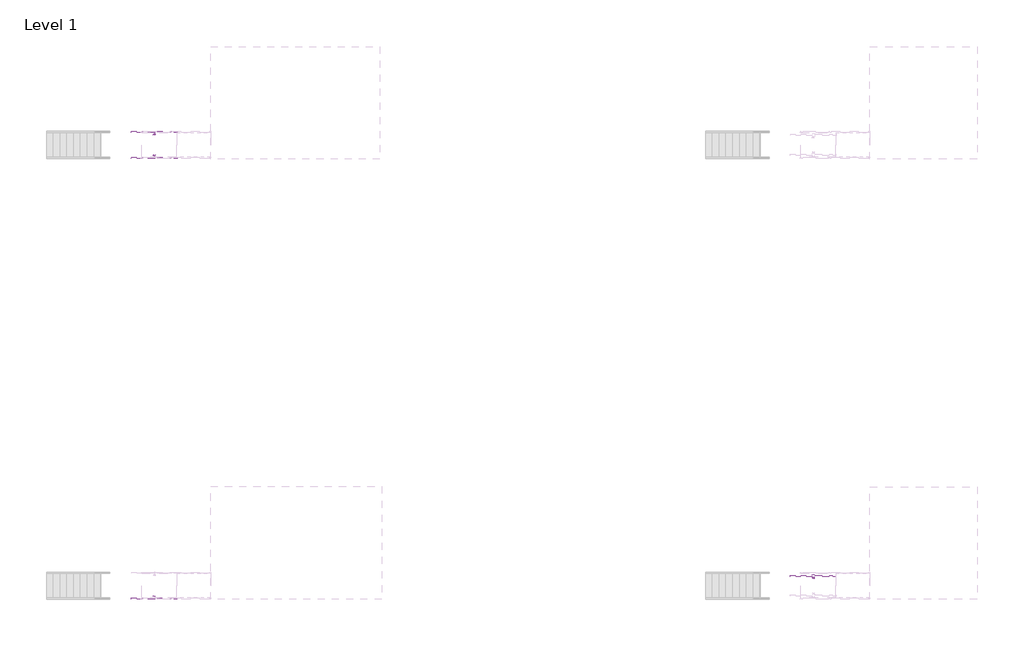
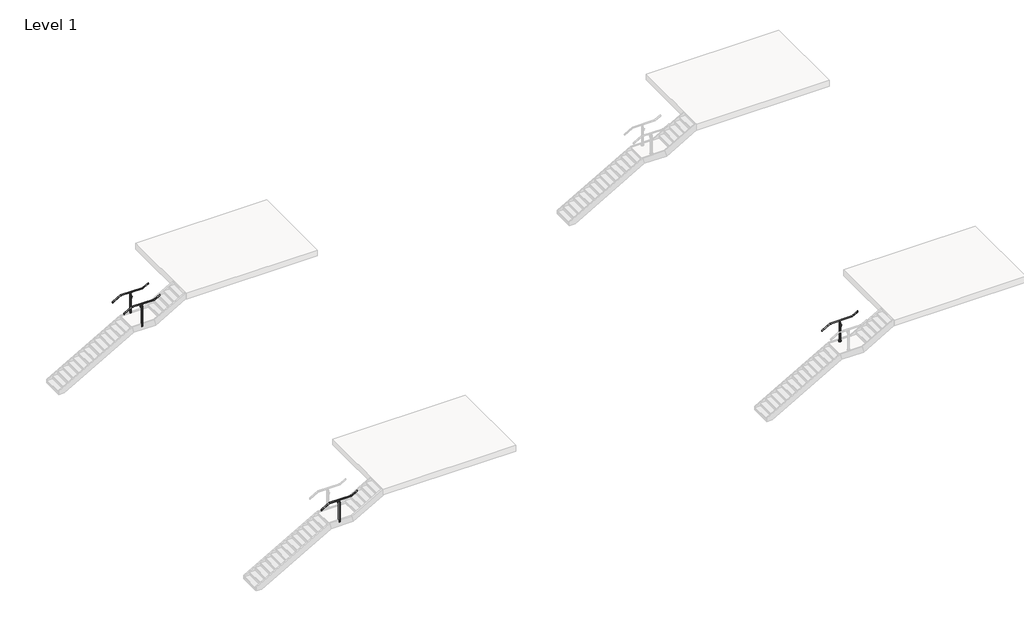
# One storey, part 18 of 26: 4 railings.
"""IFC4 building model written with IfcOpenShell, lengths in millimetres."""

from ifc_helpers import new_model, si_unit, point, frame, frame_2d, origin, place, context, project, spatial, polyline, circle_curve, ellipse_curve, trimmed, segment, composite_curve, outline, extrude, faceted_brep, element, save
from ifc_brep_helpers import plane_surface, cylinder_surface, advanced_brep

model = new_model("IFC4")

# Units and contexts
model_context = context("Model", 3, world=origin())
ifc_project = project(units=[si_unit("LENGTHUNIT", "METRE", prefix="MILLI")], contexts=[model_context])

# Site, building, storey
site = spatial("IfcSite", under=ifc_project)
building = spatial("IfcBuilding", under=site)
storey = spatial("IfcBuildingStorey", under=building, Name="Level 1", Elevation=0.0)

# Railings
placement = place(None, origin())
element("IfcRailing", 1, ObjectType="VIVA-CUBE-Perforated-Weld Mount-Stair-Landing", at=placement, inside=storey, context=model_context, shape_type="SolidModel", body=[
    advanced_brep(
    [(137924.2882982, -1515.4986114, 3009.6740933), (137924.2882982, -1464.6986114, 3009.6740933), (138312.0336349, -1515.4986114, 3231.2428571), (138312.0336349, -1464.6986114, 3231.2428571), (139378.8336349, -1515.4986114, 3231.2428571), (139378.8336349, -1464.6986114, 3231.2428571), (139648.3132982, -1515.4986114, 3385.2312362), (139648.3132982, -1464.6986114, 3385.2312362)],
    [
        (0, 1, ellipse_curve(frame((137924.2882982, -1490.0986114, 3009.6740933), z_axis=(-1.0, 0.0, 0.0), x_axis=(0.0, 0.0, -0.9999999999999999)), 29.2544781, 25.4)),
        (1, 0, ellipse_curve(frame((137924.2882982, -1490.0986114, 3009.6740933), z_axis=(-1.0, 0.0, 0.0), x_axis=(0.0, 0.0, -0.9999999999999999)), 29.2544781, 25.4)),
        (0, 2),
        (2, 3, ellipse_curve(frame((138312.0336349, -1490.0986114, 3231.2428571), z_axis=(-0.966499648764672, 0.0, -0.2566679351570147), x_axis=(0.2566679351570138, 0.0, -0.9664996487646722)), 26.2804027, 25.4)),
        (3, 1),
        (3, 2, ellipse_curve(frame((138312.0336349, -1490.0986114, 3231.2428571), z_axis=(-0.966499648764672, 0.0, -0.2566679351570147), x_axis=(0.2566679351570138, 0.0, -0.9664996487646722)), 26.2804027, 25.4)),
        (2, 4),
        (4, 5, ellipse_curve(frame((139378.8336349, -1490.0986114, 3231.2428571), z_axis=(-0.9664996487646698, 0.0, -0.2566679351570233), x_axis=(-0.25666793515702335, 0.0, 0.9664996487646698)), 26.2804027, 25.4)),
        (5, 3),
        (5, 4, ellipse_curve(frame((139378.8336349, -1490.0986114, 3231.2428571), z_axis=(-0.9664996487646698, 0.0, -0.2566679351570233), x_axis=(-0.25666793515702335, 0.0, 0.9664996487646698)), 26.2804027, 25.4)),
        (6, 7, ellipse_curve(frame((139648.3132982, -1490.0986114, 3385.2312362), z_axis=(1.0, 0.0, 0.0), x_axis=(0.0, 0.0, -1.0)), 29.2544781, 25.4)),
        (7, 6, ellipse_curve(frame((139648.3132982, -1490.0986114, 3385.2312362), z_axis=(1.0, 0.0, 0.0), x_axis=(0.0, 0.0, -1.0)), 29.2544781, 25.4)),
        (4, 6),
        (7, 5),
    ],
    [
        plane_surface(frame((137924.2882982, -1490.0986114, 3038.9285714), z_axis=(-1.0, 0.0, 0.0), x_axis=(0.0, 1.0, 0.0))),
        cylinder_surface(frame((137936.8902273, -1490.0986114, 3016.8751956), z_axis=(-0.868243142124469, 0.0, -0.49613893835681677), x_axis=(0.0, 1.0, 0.0)), 25.4),
        cylinder_surface(frame((138305.2882982, -1490.0986114, 3231.2428571), z_axis=(-1.0, 0.0, 0.0), x_axis=(0.0, 1.0, 0.0)), 25.4),
        plane_surface(frame((139648.3132982, -1490.0986114, 3414.4857143), z_axis=(1.0, 0.0, 0.0), x_axis=(0.0, 1.0, 0.0))),
        cylinder_surface(frame((139384.6902273, -1490.0986114, 3234.5894813), z_axis=(-0.8682431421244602, 0.0, -0.49613893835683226), x_axis=(0.0, 1.0, 0.0)), 25.4),
    ],
    [
        (0, [[1, 2]]),
        (1, [[-1, 3, 4, 5]]),
        (1, [[-2, -5, 6, -3]]),
        (2, [[-4, 7, 8, 9]]),
        (2, [[-6, -9, 10, -7]]),
        (3, [[11, 12]]),
        (4, [[-8, 13, -12, 14]]),
        (4, [[-10, -14, -11, -13]]),
    ],
),
    extrude(outline(composite_curve([segment(trimmed(circle_curve(frame_2d((0.0, 7.0)), 7.0), [point((0.0, 14.0))], [point((0.0, 0.0))], False, "CARTESIAN"), True, "CONTINUOUS"), segment(trimmed(circle_curve(frame_2d((0.0, 7.0)), 7.0), [point((0.0, 0.0))], [point((0.0, 14.0))], False, "CARTESIAN"), True, "CONTINUOUS")], self_intersect=False)), frame((138786.7930588, -1575.7824372, 2972.3156836), z_axis=(-0.0012555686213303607, 0.0, 0.999999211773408), x_axis=(-0.999999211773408, 0.0, -0.0012555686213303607)), (0.0, 0.0, 1.0), 75.97),
    extrude(outline(composite_curve([segment(polyline([(-1570.500781, 3056.8509005), (-1569.4743913, 3055.8335135)]), True, "CONTINUOUS"), segment(trimmed(circle_curve(frame_2d((-1570.5303692, 3054.7681916)), 1.5), [point((-1569.4743913, 3055.8335135))], [point((-1569.5449677, 3053.6372698))], False, "CARTESIAN"), True, "CONTINUOUS"), segment(trimmed(circle_curve(frame_2d((-1584.0303692, 3070.2618193)), 22.05), [point((-1569.5449677, 3053.6372698))], [point((-1598.5157707, 3053.6372698))], False, "CARTESIAN"), True, "CONTINUOUS"), segment(trimmed(circle_curve(frame_2d((-1597.5303692, 3054.7681916)), 1.5), [point((-1598.5157707, 3053.6372698))], [point((-1598.5863471, 3055.8335135))], False, "CARTESIAN"), True, "CONTINUOUS"), segment(polyline([(-1598.5863471, 3055.8335135), (-1597.5599574, 3056.8509005)]), True, "CONTINUOUS"), segment(trimmed(circle_curve(frame_2d((-1584.0303692, 3070.2618193)), 19.05), [point((-1597.5599574, 3056.8509005))], [point((-1570.500781, 3056.8509005))], True, "CARTESIAN"), True, "CONTINUOUS")], self_intersect=False)), frame((138748.6215249, 0.0, 0.0), z_axis=(1.0, 0.0, 0.0), x_axis=(0.0, 1.0, 0.0)), (0.0, 0.0, 1.0), 74.5229187),
    extrude(outline(composite_curve([segment(trimmed(circle_curve(frame_2d((2999.1922796, 138786.7331553)), 12.5), [point((2999.1922796, 138799.2331553))], [point((2999.1922796, 138774.2331553))], False, "CARTESIAN"), True, "CONTINUOUS"), segment(trimmed(circle_curve(frame_2d((2999.1922796, 138786.7331553)), 12.5), [point((2999.1922796, 138774.2331553))], [point((2999.1922796, 138799.2331553))], False, "CARTESIAN"), True, "CONTINUOUS")], self_intersect=False)), frame((0.0, -1597.5599574, 0.0), z_axis=(0.0, 1.0, 0.0), x_axis=(0.0, 0.0, 1.0)), (0.0, 0.0, 1.0), 82.061346),
    extrude(outline(composite_curve([segment(trimmed(circle_curve(frame_2d((2999.1922796, 138786.7331553)), 12.5), [point((2999.1922796, 138774.2331553))], [point((2999.1922796, 138799.2331553))], False, "CARTESIAN"), True, "CONTINUOUS"), segment(trimmed(circle_curve(frame_2d((2999.1922796, 138786.7331553)), 12.5), [point((2999.1922796, 138799.2331553))], [point((2999.1922796, 138774.2331553))], False, "CARTESIAN"), True, "CONTINUOUS")], self_intersect=False)), frame((0.0, -1464.6986114, 0.0), z_axis=(0.0, 1.0, 0.0), x_axis=(0.0, 0.0, 1.0)), (0.0, 0.0, 1.0), 7.62),
    faceted_brep([(138799.3976732, -1502.7986114, 3174.433132), (138799.3976732, -1494.0673614, 3174.433132), (138773.9976732, -1494.0673614, 3174.433132), (138773.9976732, -1502.7986114, 3174.433132), (138773.9976732, -1477.3986114, 3174.433132), (138773.9976732, -1486.1298614, 3174.433132), (138799.3976732, -1486.1298614, 3174.433132), (138799.3976732, -1477.3986114, 3174.433132), (138812.0976732, -1515.4986114, 3118.2776425), (138812.0976732, -1464.6986114, 3118.2776425), (138761.2976732, -1515.4986114, 3118.2776425), (138761.2976732, -1464.6986114, 3118.2776425), (138812.0976732, -1515.4986114, 2088.2428571), (138761.2976732, -1515.4986114, 2088.2428571), (138761.2976732, -1464.6986114, 2088.2428571), (138812.0976732, -1464.6986114, 2088.2428571), (138773.9976732, -1486.1298614, 3186.4734584), (138773.9976732, -1494.0673614, 3186.4734584), (138799.3976732, -1494.0673614, 3186.4734584), (138799.3976732, -1486.1298614, 3186.4734584)], [[[0, 1, 2, 3]], [[4, 5, 6, 7]], [[8, 9, 7, 6, 1, 0]], [[3, 10, 8, 0]], [[3, 2, 5, 4, 11, 10]], [[7, 9, 11, 4]], [[12, 13, 14, 15]], [[12, 8, 10, 13]], [[13, 10, 11, 14]], [[14, 11, 9, 15]], [[15, 9, 8, 12]], [[16, 17, 18, 19]], [[19, 6, 5, 16]], [[18, 1, 6, 19]], [[17, 2, 1, 18]], [[16, 5, 2, 17]]]),
    extrude(outline(composite_curve([segment(trimmed(circle_curve(frame_2d((-1476.0839792, 3206.6530378)), 2.9558141), [point((-1477.6315369, 3209.1713512))], [point((-1473.7956395, 3204.7821187))], False, "CARTESIAN"), True, "CONTINUOUS"), segment(trimmed(circle_curve(frame_2d((-1490.0618767, 3232.0488022)), 31.75), [point((-1473.7956395, 3204.7821187))], [point((-1505.3125317, 3204.2013603))], False, "CARTESIAN"), True, "CONTINUOUS"), segment(trimmed(circle_curve(frame_2d((-1503.8352267, 3206.5739456)), 2.7949225), [point((-1505.3125317, 3204.2013603))], [point((-1502.5905735, 3209.0764304))], False, "CARTESIAN"), True, "CONTINUOUS"), segment(trimmed(circle_curve(frame_2d((-1490.1953398, 3231.2861755)), 25.4345159), [point((-1502.5905735, 3209.0764304))], [point((-1477.6315369, 3209.1713512))], True, "CARTESIAN"), True, "CONTINUOUS")], self_intersect=False)), frame((138741.4602732, 0.0, 0.0), z_axis=(1.0, 0.0, 0.0), x_axis=(0.0, 1.0, 0.0)), (0.0, 0.0, 1.0), 90.4748),
    extrude(outline(composite_curve([segment(polyline([(3200.5113742, 138813.7655881), (3200.5113742, 138759.6297584)]), True, "CONTINUOUS"), segment(trimmed(circle_curve(frame_2d((3186.1434593, 138759.6297584)), 14.3679149), [point((3200.5113742, 138759.6297584))], [point((3186.1434593, 138773.9976732))], True, "CARTESIAN"), True, "CONTINUOUS"), segment(trimmed(circle_curve(frame_2d((3186.1434593, 138786.6976732)), 12.7), [point((3186.1434593, 138773.9976732))], [point((3186.1434593, 138799.3976732))], False, "CARTESIAN"), True, "CONTINUOUS"), segment(trimmed(circle_curve(frame_2d((3186.1434593, 138813.7655881)), 14.3679149), [point((3186.1434593, 138799.3976732))], [point((3200.5113742, 138813.7655881))], True, "CARTESIAN"), True, "CONTINUOUS")], self_intersect=False)), frame((0.0, -1492.6386114, 0.0), z_axis=(0.0, 1.0, 0.0), x_axis=(0.0, 0.0, 1.0)), (0.0, 0.0, 1.0), 5.08),
])
element("IfcRailing", 2, ObjectType="VIVA-CUBE-Perforated-Weld Mount-Stair-Landing", at=placement, inside=storey, context=model_context, shape_type="SolidModel", body=[
    advanced_brep(
    [(137924.2882982, -2480.6986114, 3009.6740933), (137924.2882982, -2429.8986114, 3009.6740933), (138312.0336349, -2480.6986114, 3231.2428571), (138312.0336349, -2429.8986114, 3231.2428571), (139378.8336349, -2480.6986114, 3231.2428571), (139378.8336349, -2429.8986114, 3231.2428571), (139648.3132982, -2480.6986114, 3385.2312362), (139648.3132982, -2429.8986114, 3385.2312362)],
    [
        (0, 1, ellipse_curve(frame((137924.2882982, -2455.2986114, 3009.6740933), z_axis=(-1.0, 0.0, 0.0), x_axis=(0.0, 0.0, -0.9999999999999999)), 29.2544781, 25.4)),
        (1, 0, ellipse_curve(frame((137924.2882982, -2455.2986114, 3009.6740933), z_axis=(-1.0, 0.0, 0.0), x_axis=(0.0, 0.0, -0.9999999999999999)), 29.2544781, 25.4)),
        (0, 2),
        (2, 3, ellipse_curve(frame((138312.0336349, -2455.2986114, 3231.2428571), z_axis=(-0.966499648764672, 0.0, -0.2566679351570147), x_axis=(0.2566679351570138, 0.0, -0.9664996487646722)), 26.2804027, 25.4)),
        (3, 1),
        (3, 2, ellipse_curve(frame((138312.0336349, -2455.2986114, 3231.2428571), z_axis=(-0.966499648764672, 0.0, -0.2566679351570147), x_axis=(0.2566679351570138, 0.0, -0.9664996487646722)), 26.2804027, 25.4)),
        (2, 4),
        (4, 5, ellipse_curve(frame((139378.8336349, -2455.2986114, 3231.2428571), z_axis=(-0.9664996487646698, 0.0, -0.2566679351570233), x_axis=(-0.25666793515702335, 0.0, 0.9664996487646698)), 26.2804027, 25.4)),
        (5, 3),
        (5, 4, ellipse_curve(frame((139378.8336349, -2455.2986114, 3231.2428571), z_axis=(-0.9664996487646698, 0.0, -0.2566679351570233), x_axis=(-0.25666793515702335, 0.0, 0.9664996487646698)), 26.2804027, 25.4)),
        (6, 7, ellipse_curve(frame((139648.3132982, -2455.2986114, 3385.2312362), z_axis=(1.0, 0.0, 0.0), x_axis=(0.0, 0.0, -1.0)), 29.2544781, 25.4)),
        (7, 6, ellipse_curve(frame((139648.3132982, -2455.2986114, 3385.2312362), z_axis=(1.0, 0.0, 0.0), x_axis=(0.0, 0.0, -1.0)), 29.2544781, 25.4)),
        (4, 6),
        (7, 5),
    ],
    [
        plane_surface(frame((137924.2882982, -2455.2986114, 3038.9285714), z_axis=(-1.0, 0.0, 0.0), x_axis=(0.0, 1.0, 0.0))),
        cylinder_surface(frame((137936.8902273, -2455.2986114, 3016.8751956), z_axis=(-0.868243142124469, 0.0, -0.49613893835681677), x_axis=(0.0, 1.0, 0.0)), 25.4),
        cylinder_surface(frame((138305.2882982, -2455.2986114, 3231.2428571), z_axis=(-1.0, 0.0, 0.0), x_axis=(0.0, 1.0, 0.0)), 25.4),
        plane_surface(frame((139648.3132982, -2455.2986114, 3414.4857143), z_axis=(1.0, 0.0, 0.0), x_axis=(0.0, 1.0, 0.0))),
        cylinder_surface(frame((139384.6902273, -2455.2986114, 3234.5894813), z_axis=(-0.8682431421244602, 0.0, -0.49613893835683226), x_axis=(0.0, 1.0, 0.0)), 25.4),
    ],
    [
        (0, [[1, 2]]),
        (1, [[-1, 3, 4, 5]]),
        (1, [[-2, -5, 6, -3]]),
        (2, [[-4, 7, 8, 9]]),
        (2, [[-6, -9, 10, -7]]),
        (3, [[11, 12]]),
        (4, [[-8, 13, -12, 14]]),
        (4, [[-10, -14, -11, -13]]),
    ],
),
    extrude(outline(composite_curve([segment(trimmed(circle_curve(frame_2d((0.0, -7.0)), 7.0), [point((0.0, -14.0))], [point((0.0, 0.0))], False, "CARTESIAN"), True, "CONTINUOUS"), segment(trimmed(circle_curve(frame_2d((0.0, -7.0)), 7.0), [point((0.0, 0.0))], [point((0.0, -14.0))], False, "CARTESIAN"), True, "CONTINUOUS")], self_intersect=False)), frame((138786.7930588, -2369.6147856, 2972.3156836), z_axis=(-0.0012555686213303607, 0.0, 0.999999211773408), x_axis=(-0.999999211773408, 0.0, -0.0012555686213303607)), (0.0, 0.0, 1.0), 75.97),
    extrude(outline(composite_curve([segment(trimmed(circle_curve(frame_2d((-2361.3668536, 3070.2618193)), 19.05), [point((-2374.8964418, 3056.8509005))], [point((-2347.8372654, 3056.8509005))], True, "CARTESIAN"), True, "CONTINUOUS"), segment(polyline([(-2347.8372654, 3056.8509005), (-2346.8108757, 3055.8335135)]), True, "CONTINUOUS"), segment(trimmed(circle_curve(frame_2d((-2347.8668536, 3054.7681916)), 1.5), [point((-2346.8108757, 3055.8335135))], [point((-2346.8814521, 3053.6372698))], False, "CARTESIAN"), True, "CONTINUOUS"), segment(trimmed(circle_curve(frame_2d((-2361.3668536, 3070.2618193)), 22.05), [point((-2346.8814521, 3053.6372698))], [point((-2375.8522551, 3053.6372698))], False, "CARTESIAN"), True, "CONTINUOUS"), segment(trimmed(circle_curve(frame_2d((-2374.8668536, 3054.7681916)), 1.5), [point((-2375.8522551, 3053.6372698))], [point((-2375.9228315, 3055.8335135))], False, "CARTESIAN"), True, "CONTINUOUS"), segment(polyline([(-2375.9228315, 3055.8335135), (-2374.8964418, 3056.8509005)]), True, "CONTINUOUS")], self_intersect=False)), frame((138748.6215249, 0.0, 0.0), z_axis=(1.0, 0.0, 0.0), x_axis=(0.0, 1.0, 0.0)), (0.0, 0.0, 1.0), 74.5229187),
    extrude(outline(composite_curve([segment(trimmed(circle_curve(frame_2d((2999.1922796, 138786.7331553)), 12.5), [point((2999.1922796, 138799.2331553))], [point((2999.1922796, 138774.2331553))], False, "CARTESIAN"), True, "CONTINUOUS"), segment(trimmed(circle_curve(frame_2d((2999.1922796, 138786.7331553)), 12.5), [point((2999.1922796, 138774.2331553))], [point((2999.1922796, 138799.2331553))], False, "CARTESIAN"), True, "CONTINUOUS")], self_intersect=False)), frame((0.0, -2429.8986114, 0.0), z_axis=(0.0, 1.0, 0.0), x_axis=(0.0, 0.0, 1.0)), (0.0, 0.0, 1.0), 82.061346),
    extrude(outline(composite_curve([segment(trimmed(circle_curve(frame_2d((2999.1922796, 138786.7331553)), 12.5), [point((2999.1922796, 138774.2331553))], [point((2999.1922796, 138799.2331553))], False, "CARTESIAN"), True, "CONTINUOUS"), segment(trimmed(circle_curve(frame_2d((2999.1922796, 138786.7331553)), 12.5), [point((2999.1922796, 138799.2331553))], [point((2999.1922796, 138774.2331553))], False, "CARTESIAN"), True, "CONTINUOUS")], self_intersect=False)), frame((0.0, -2488.3186114, 0.0), z_axis=(0.0, 1.0, 0.0), x_axis=(0.0, 0.0, 1.0)), (0.0, 0.0, 1.0), 7.62),
    faceted_brep([(138799.3976732, -2442.5986114, 3174.433132), (138773.9976732, -2442.5986114, 3174.433132), (138773.9976732, -2451.3298614, 3174.433132), (138799.3976732, -2451.3298614, 3174.433132), (138773.9976732, -2467.9986114, 3174.433132), (138799.3976732, -2467.9986114, 3174.433132), (138799.3976732, -2459.2673614, 3174.433132), (138773.9976732, -2459.2673614, 3174.433132), (138812.0976732, -2429.8986114, 3118.2776425), (138812.0976732, -2480.6986114, 3118.2776425), (138761.2976732, -2429.8986114, 3118.2776425), (138761.2976732, -2480.6986114, 3118.2776425), (138812.0976732, -2429.8986114, 2088.2428571), (138812.0976732, -2480.6986114, 2088.2428571), (138761.2976732, -2480.6986114, 2088.2428571), (138761.2976732, -2429.8986114, 2088.2428571), (138773.9976732, -2459.2673614, 3186.4734584), (138799.3976732, -2459.2673614, 3186.4734584), (138799.3976732, -2451.3298614, 3186.4734584), (138773.9976732, -2451.3298614, 3186.4734584)], [[[0, 1, 2, 3]], [[4, 5, 6, 7]], [[8, 0, 3, 6, 5, 9]], [[1, 0, 8, 10]], [[1, 10, 11, 4, 7, 2]], [[5, 4, 11, 9]], [[12, 13, 14, 15]], [[12, 15, 10, 8]], [[15, 14, 11, 10]], [[14, 13, 9, 11]], [[13, 12, 8, 9]], [[16, 17, 18, 19]], [[17, 16, 7, 6]], [[18, 17, 6, 3]], [[19, 18, 3, 2]], [[16, 19, 2, 7]]]),
    extrude(outline(composite_curve([segment(trimmed(circle_curve(frame_2d((-2455.201883, 3231.2861755)), 25.4345159), [point((-2467.7656859, 3209.1713512))], [point((-2442.8066493, 3209.0764304))], True, "CARTESIAN"), True, "CONTINUOUS"), segment(trimmed(circle_curve(frame_2d((-2441.5619961, 3206.5739456)), 2.7949225), [point((-2442.8066493, 3209.0764304))], [point((-2440.0846911, 3204.2013603))], False, "CARTESIAN"), True, "CONTINUOUS"), segment(trimmed(circle_curve(frame_2d((-2455.3353461, 3232.0488022)), 31.75), [point((-2440.0846911, 3204.2013603))], [point((-2471.6015833, 3204.7821187))], False, "CARTESIAN"), True, "CONTINUOUS"), segment(trimmed(circle_curve(frame_2d((-2469.3132436, 3206.6530378)), 2.9558141), [point((-2471.6015833, 3204.7821187))], [point((-2467.7656859, 3209.1713512))], False, "CARTESIAN"), True, "CONTINUOUS")], self_intersect=False)), frame((138741.4602732, 0.0, 0.0), z_axis=(1.0, 0.0, 0.0), x_axis=(0.0, 1.0, 0.0)), (0.0, 0.0, 1.0), 90.4748),
    extrude(outline(composite_curve([segment(polyline([(3200.5113742, 138813.7655881), (3200.5113742, 138759.6297584)]), True, "CONTINUOUS"), segment(trimmed(circle_curve(frame_2d((3186.1434593, 138759.6297584)), 14.3679149), [point((3200.5113742, 138759.6297584))], [point((3186.1434593, 138773.9976732))], True, "CARTESIAN"), True, "CONTINUOUS"), segment(trimmed(circle_curve(frame_2d((3186.1434593, 138786.6976732)), 12.7), [point((3186.1434593, 138773.9976732))], [point((3186.1434593, 138799.3976732))], False, "CARTESIAN"), True, "CONTINUOUS"), segment(trimmed(circle_curve(frame_2d((3186.1434593, 138813.7655881)), 14.3679149), [point((3186.1434593, 138799.3976732))], [point((3200.5113742, 138813.7655881))], True, "CARTESIAN"), True, "CONTINUOUS")], self_intersect=False)), frame((0.0, -2457.8386114, 0.0), z_axis=(0.0, 1.0, 0.0), x_axis=(0.0, 0.0, 1.0)), (0.0, 0.0, 1.0), 5.08),
])
element("IfcRailing", 3, ObjectType="VIVA-CUBE-Wire Mesh-Core Mount-Stair-Landing", at=placement, inside=storey, context=model_context, shape_type="SolidModel", body=[
    advanced_brep(
    [(162601.2620703, -18148.5120358, 3009.6740933), (162601.2620703, -18097.7120358, 3009.6740933), (162989.007407, -18148.5120358, 3231.2428571), (162989.007407, -18097.7120358, 3231.2428571), (164055.807407, -18148.5120358, 3231.2428571), (164055.807407, -18097.7120358, 3231.2428571), (164325.2870703, -18148.5120358, 3385.2312362), (164325.2870703, -18097.7120358, 3385.2312362)],
    [
        (0, 1, ellipse_curve(frame((162601.2620703, -18123.1120358, 3009.6740933), z_axis=(-1.0, 0.0, 0.0), x_axis=(0.0, 0.0, -1.0)), 29.2544781, 25.4)),
        (1, 0, ellipse_curve(frame((162601.2620703, -18123.1120358, 3009.6740933), z_axis=(-1.0, 0.0, 0.0), x_axis=(0.0, 0.0, -1.0)), 29.2544781, 25.4)),
        (0, 2),
        (2, 3, ellipse_curve(frame((162989.007407, -18123.1120358, 3231.2428571), z_axis=(-0.9664996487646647, 0.0, -0.2566679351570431), x_axis=(0.2566679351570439, 0.0, -0.9664996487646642)), 26.2804027, 25.4)),
        (3, 1),
        (3, 2, ellipse_curve(frame((162989.007407, -18123.1120358, 3231.2428571), z_axis=(-0.9664996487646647, 0.0, -0.2566679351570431), x_axis=(0.2566679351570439, 0.0, -0.9664996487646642)), 26.2804027, 25.4)),
        (2, 4),
        (4, 5, ellipse_curve(frame((164055.807407, -18123.1120358, 3231.2428571), z_axis=(-0.966499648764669, 0.0, -0.25666793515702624), x_axis=(-0.25666793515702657, 0.0, 0.966499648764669)), 26.2804027, 25.4)),
        (5, 3),
        (5, 4, ellipse_curve(frame((164055.807407, -18123.1120358, 3231.2428571), z_axis=(-0.966499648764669, 0.0, -0.25666793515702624), x_axis=(-0.25666793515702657, 0.0, 0.966499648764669)), 26.2804027, 25.4)),
        (6, 7, ellipse_curve(frame((164325.2870703, -18123.1120358, 3385.2312362), z_axis=(1.0, 0.0, 0.0), x_axis=(0.0, 0.0, -1.0)), 29.2544781, 25.4)),
        (7, 6, ellipse_curve(frame((164325.2870703, -18123.1120358, 3385.2312362), z_axis=(1.0, 0.0, 0.0), x_axis=(0.0, 0.0, -1.0)), 29.2544781, 25.4)),
        (4, 6),
        (7, 5),
    ],
    [
        plane_surface(frame((162601.2620703, -18123.1120358, 3038.9285714), z_axis=(-1.0, 0.0, 0.0), x_axis=(0.0, 1.0, 0.0))),
        cylinder_surface(frame((162613.8639993, -18123.1120358, 3016.8751956), z_axis=(-0.8682431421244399, 0.0, -0.4961389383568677), x_axis=(0.0, 1.0, 0.0)), 25.4),
        cylinder_surface(frame((162982.2620703, -18123.1120358, 3231.2428571), z_axis=(-1.0, 0.0, 0.0), x_axis=(0.0, 1.0, 0.0)), 25.4),
        plane_surface(frame((164325.2870703, -18123.1120358, 3414.4857143), z_axis=(1.0, 0.0, 0.0), x_axis=(0.0, 1.0, 0.0))),
        cylinder_surface(frame((164061.6639993, -18123.1120358, 3234.5894813), z_axis=(-0.8682431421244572, 0.0, -0.49613893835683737), x_axis=(0.0, 1.0, 0.0)), 25.4),
    ],
    [
        (0, [[1, 2]]),
        (1, [[-1, 3, 4, 5]]),
        (1, [[-2, -5, 6, -3]]),
        (2, [[-4, 7, 8, 9]]),
        (2, [[-6, -9, 10, -7]]),
        (3, [[11, 12]]),
        (4, [[-8, 13, -12, 14]]),
        (4, [[-10, -14, -11, -13]]),
    ],
),
    extrude(outline(composite_curve([segment(trimmed(circle_curve(frame_2d((0.0, 7.0)), 7.0), [point((0.0, 14.0))], [point((0.0, 0.0))], False, "CARTESIAN"), True, "CONTINUOUS"), segment(trimmed(circle_curve(frame_2d((0.0, 7.0)), 7.0), [point((0.0, 0.0))], [point((0.0, 14.0))], False, "CARTESIAN"), True, "CONTINUOUS")], self_intersect=False)), frame((163463.7668308, -18208.7958616, 2972.3156836), z_axis=(-0.0012555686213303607, 0.0, 0.999999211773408), x_axis=(-0.999999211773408, 0.0, -0.0012555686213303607)), (0.0, 0.0, 1.0), 75.97),
    extrude(outline(composite_curve([segment(polyline([(-18203.5142054, 3056.8509005), (-18202.4878157, 3055.8335135)]), True, "CONTINUOUS"), segment(trimmed(circle_curve(frame_2d((-18203.5437936, 3054.7681916)), 1.5), [point((-18202.4878157, 3055.8335135))], [point((-18202.5583921, 3053.6372698))], False, "CARTESIAN"), True, "CONTINUOUS"), segment(trimmed(circle_curve(frame_2d((-18217.0437936, 3070.2618193)), 22.05), [point((-18202.5583921, 3053.6372698))], [point((-18231.5291951, 3053.6372698))], False, "CARTESIAN"), True, "CONTINUOUS"), segment(trimmed(circle_curve(frame_2d((-18230.5437936, 3054.7681916)), 1.5), [point((-18231.5291951, 3053.6372698))], [point((-18231.5997715, 3055.8335135))], False, "CARTESIAN"), True, "CONTINUOUS"), segment(polyline([(-18231.5997715, 3055.8335135), (-18230.5733818, 3056.8509005)]), True, "CONTINUOUS"), segment(trimmed(circle_curve(frame_2d((-18217.0437936, 3070.2618193)), 19.05), [point((-18230.5733818, 3056.8509005))], [point((-18203.5142054, 3056.8509005))], True, "CARTESIAN"), True, "CONTINUOUS")], self_intersect=False)), frame((163425.5952969, 0.0, 0.0), z_axis=(1.0, 0.0, 0.0), x_axis=(0.0, 1.0, 0.0)), (0.0, 0.0, 1.0), 74.5229187),
    extrude(outline(composite_curve([segment(trimmed(circle_curve(frame_2d((2999.1922796, 163463.7069273)), 12.5), [point((2999.1922796, 163476.2069273))], [point((2999.1922796, 163451.2069273))], False, "CARTESIAN"), True, "CONTINUOUS"), segment(trimmed(circle_curve(frame_2d((2999.1922796, 163463.7069273)), 12.5), [point((2999.1922796, 163451.2069273))], [point((2999.1922796, 163476.2069273))], False, "CARTESIAN"), True, "CONTINUOUS")], self_intersect=False)), frame((0.0, -18230.5733818, 0.0), z_axis=(0.0, 1.0, 0.0), x_axis=(0.0, 0.0, 1.0)), (0.0, 0.0, 1.0), 82.061346),
    extrude(outline(composite_curve([segment(trimmed(circle_curve(frame_2d((2999.1922796, 163463.7069273)), 12.5), [point((2999.1922796, 163451.2069273))], [point((2999.1922796, 163476.2069273))], False, "CARTESIAN"), True, "CONTINUOUS"), segment(trimmed(circle_curve(frame_2d((2999.1922796, 163463.7069273)), 12.5), [point((2999.1922796, 163476.2069273))], [point((2999.1922796, 163451.2069273))], False, "CARTESIAN"), True, "CONTINUOUS")], self_intersect=False)), frame((0.0, -18097.7120358, 0.0), z_axis=(0.0, 1.0, 0.0), x_axis=(0.0, 0.0, 1.0)), (0.0, 0.0, 1.0), 7.62),
    extrude(outline(composite_curve([segment(trimmed(circle_curve(frame_2d((163463.6714453, -18123.1120358)), 63.5), [point((163463.6714453, -18059.6120358))], [point((163463.6714453, -18186.6120358))], False, "CARTESIAN"), True, "CONTINUOUS"), segment(trimmed(circle_curve(frame_2d((163463.6714453, -18123.1120358)), 63.5), [point((163463.6714453, -18186.6120358))], [point((163463.6714453, -18059.6120358))], False, "CARTESIAN"), True, "CONTINUOUS")], self_intersect=False), holes=[composite_curve([segment(trimmed(circle_curve(frame_2d((163428.2017014, -18087.6422919)), 4.7625), [point((163428.2017014, -18082.8797919))], [point((163428.2017014, -18092.4047919))], True, "CARTESIAN"), True, "CONTINUOUS"), segment(trimmed(circle_curve(frame_2d((163428.2017014, -18087.6422919)), 4.7625), [point((163428.2017014, -18092.4047919))], [point((163428.2017014, -18082.8797919))], True, "CARTESIAN"), True, "CONTINUOUS")], self_intersect=False), composite_curve([segment(trimmed(circle_curve(frame_2d((163428.2017014, -18158.5817797)), 4.7625), [point((163428.2017014, -18153.8192797))], [point((163428.2017014, -18163.3442797))], True, "CARTESIAN"), True, "CONTINUOUS"), segment(trimmed(circle_curve(frame_2d((163428.2017014, -18158.5817797)), 4.7625), [point((163428.2017014, -18163.3442797))], [point((163428.2017014, -18153.8192797))], True, "CARTESIAN"), True, "CONTINUOUS")], self_intersect=False), composite_curve([segment(trimmed(circle_curve(frame_2d((163499.1411892, -18087.6422919)), 4.7625), [point((163499.1411892, -18082.8797919))], [point((163499.1411892, -18092.4047919))], True, "CARTESIAN"), True, "CONTINUOUS"), segment(trimmed(circle_curve(frame_2d((163499.1411892, -18087.6422919)), 4.7625), [point((163499.1411892, -18092.4047919))], [point((163499.1411892, -18082.8797919))], True, "CARTESIAN"), True, "CONTINUOUS")], self_intersect=False), composite_curve([segment(trimmed(circle_curve(frame_2d((163499.1411892, -18158.5817797)), 4.7625), [point((163499.1411892, -18153.8192797))], [point((163499.1411892, -18163.3442797))], True, "CARTESIAN"), True, "CONTINUOUS"), segment(trimmed(circle_curve(frame_2d((163499.1411892, -18158.5817797)), 4.7625), [point((163499.1411892, -18163.3442797))], [point((163499.1411892, -18153.8192797))], True, "CARTESIAN"), True, "CONTINUOUS")], self_intersect=False)]), frame((0.0, 0.0, 2177.1428571), z_axis=(0.0, 0.0, 1.0), x_axis=(1.0, 0.0, 0.0)), (0.0, 0.0, 1.0), 25.4),
    faceted_brep([(163476.3714453, -18135.8120358, 3174.433132), (163476.3714453, -18127.0807858, 3174.433132), (163450.9714453, -18127.0807858, 3174.433132), (163450.9714453, -18135.8120358, 3174.433132), (163450.9714453, -18110.4120358, 3174.433132), (163450.9714453, -18119.1432858, 3174.433132), (163476.3714453, -18119.1432858, 3174.433132), (163476.3714453, -18110.4120358, 3174.433132), (163489.0714453, -18148.5120358, 3118.2776425), (163489.0714453, -18097.7120358, 3118.2776425), (163438.2714453, -18148.5120358, 3118.2776425), (163438.2714453, -18097.7120358, 3118.2776425), (163489.0714453, -18148.5120358, 2088.2428571), (163438.2714453, -18148.5120358, 2088.2428571), (163438.2714453, -18097.7120358, 2088.2428571), (163489.0714453, -18097.7120358, 2088.2428571), (163450.9714453, -18119.1432858, 3186.4734584), (163450.9714453, -18127.0807858, 3186.4734584), (163476.3714453, -18127.0807858, 3186.4734584), (163476.3714453, -18119.1432858, 3186.4734584)], [[[0, 1, 2, 3]], [[4, 5, 6, 7]], [[8, 9, 7, 6, 1, 0]], [[3, 10, 8, 0]], [[3, 2, 5, 4, 11, 10]], [[7, 9, 11, 4]], [[12, 13, 14, 15]], [[12, 8, 10, 13]], [[13, 10, 11, 14]], [[14, 11, 9, 15]], [[15, 9, 8, 12]], [[16, 17, 18, 19]], [[19, 6, 5, 16]], [[18, 1, 6, 19]], [[17, 2, 1, 18]], [[16, 5, 2, 17]]]),
    extrude(outline(composite_curve([segment(trimmed(circle_curve(frame_2d((-18109.0974036, 3206.6530378)), 2.9558141), [point((-18110.6449613, 3209.1713512))], [point((-18106.8090639, 3204.7821187))], False, "CARTESIAN"), True, "CONTINUOUS"), segment(trimmed(circle_curve(frame_2d((-18123.0753011, 3232.0488022)), 31.75), [point((-18106.8090639, 3204.7821187))], [point((-18138.3259561, 3204.2013603))], False, "CARTESIAN"), True, "CONTINUOUS"), segment(trimmed(circle_curve(frame_2d((-18136.8486511, 3206.5739456)), 2.7949225), [point((-18138.3259561, 3204.2013603))], [point((-18135.6039979, 3209.0764304))], False, "CARTESIAN"), True, "CONTINUOUS"), segment(trimmed(circle_curve(frame_2d((-18123.2087642, 3231.2861755)), 25.4345159), [point((-18135.6039979, 3209.0764304))], [point((-18110.6449613, 3209.1713512))], True, "CARTESIAN"), True, "CONTINUOUS")], self_intersect=False)), frame((163418.4340453, 0.0, 0.0), z_axis=(1.0, 0.0, 0.0), x_axis=(0.0, 1.0, 0.0)), (0.0, 0.0, 1.0), 90.4748),
    extrude(outline(composite_curve([segment(polyline([(3200.5113742, 163490.7393602), (3200.5113742, 163436.6035304)]), True, "CONTINUOUS"), segment(trimmed(circle_curve(frame_2d((3186.1434593, 163436.6035304)), 14.3679149), [point((3200.5113742, 163436.6035304))], [point((3186.1434593, 163450.9714453))], True, "CARTESIAN"), True, "CONTINUOUS"), segment(trimmed(circle_curve(frame_2d((3186.1434593, 163463.6714453)), 12.7), [point((3186.1434593, 163450.9714453))], [point((3186.1434593, 163476.3714453))], False, "CARTESIAN"), True, "CONTINUOUS"), segment(trimmed(circle_curve(frame_2d((3186.1434593, 163490.7393602)), 14.3679149), [point((3186.1434593, 163476.3714453))], [point((3200.5113742, 163490.7393602))], True, "CARTESIAN"), True, "CONTINUOUS")], self_intersect=False)), frame((0.0, -18125.6520358, 0.0), z_axis=(0.0, 1.0, 0.0), x_axis=(0.0, 0.0, 1.0)), (0.0, 0.0, 1.0), 5.08),
])
element("IfcRailing", 4, ObjectType="VIVA-CUBE-Wire Mesh-Weld Mount-Stair-Landing", at=placement, inside=storey, context=model_context, shape_type="SolidModel", body=[
    advanced_brep(
    [(137924.2882982, -18999.4120358, 3009.6740933), (137924.2882982, -18948.6120358, 3009.6740933), (138312.0336349, -18999.4120358, 3231.2428571), (138312.0336349, -18948.6120358, 3231.2428571), (139378.8336349, -18999.4120358, 3231.2428571), (139378.8336349, -18948.6120358, 3231.2428571), (139648.3132982, -18999.4120358, 3385.2312362), (139648.3132982, -18948.6120358, 3385.2312362)],
    [
        (0, 1, ellipse_curve(frame((137924.2882982, -18974.0120358, 3009.6740933), z_axis=(-1.0, 0.0, 0.0), x_axis=(0.0, 0.0, -1.0)), 29.2544781, 25.4)),
        (1, 0, ellipse_curve(frame((137924.2882982, -18974.0120358, 3009.6740933), z_axis=(-1.0, 0.0, 0.0), x_axis=(0.0, 0.0, -1.0)), 29.2544781, 25.4)),
        (0, 2),
        (2, 3, ellipse_curve(frame((138312.0336349, -18974.0120358, 3231.2428571), z_axis=(-0.966499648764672, 0.0, -0.25666793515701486), x_axis=(0.2566679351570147, 0.0, -0.966499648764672)), 26.2804027, 25.4)),
        (3, 1),
        (3, 2, ellipse_curve(frame((138312.0336349, -18974.0120358, 3231.2428571), z_axis=(-0.966499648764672, 0.0, -0.25666793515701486), x_axis=(0.2566679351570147, 0.0, -0.966499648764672)), 26.2804027, 25.4)),
        (2, 4),
        (4, 5, ellipse_curve(frame((139378.8336349, -18974.0120358, 3231.2428571), z_axis=(-0.9664996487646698, 0.0, -0.2566679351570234), x_axis=(-0.2566679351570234, 0.0, 0.9664996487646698)), 26.2804027, 25.4)),
        (5, 3),
        (5, 4, ellipse_curve(frame((139378.8336349, -18974.0120358, 3231.2428571), z_axis=(-0.9664996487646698, 0.0, -0.2566679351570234), x_axis=(-0.2566679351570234, 0.0, 0.9664996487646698)), 26.2804027, 25.4)),
        (6, 7, ellipse_curve(frame((139648.3132982, -18974.0120358, 3385.2312362), z_axis=(1.0, 0.0, 0.0), x_axis=(0.0, 0.0, -1.0)), 29.2544781, 25.4)),
        (7, 6, ellipse_curve(frame((139648.3132982, -18974.0120358, 3385.2312362), z_axis=(1.0, 0.0, 0.0), x_axis=(0.0, 0.0, -1.0)), 29.2544781, 25.4)),
        (4, 6),
        (7, 5),
    ],
    [
        plane_surface(frame((137924.2882982, -18974.0120358, 3038.9285714), z_axis=(-1.0, 0.0, 0.0), x_axis=(0.0, 1.0, 0.0))),
        cylinder_surface(frame((137936.8902273, -18974.0120358, 3016.8751956), z_axis=(-0.868243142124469, 0.0, -0.49613893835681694), x_axis=(0.0, 1.0, 0.0)), 25.4),
        cylinder_surface(frame((138305.2882982, -18974.0120358, 3231.2428571), z_axis=(-1.0, 0.0, 0.0), x_axis=(0.0, 1.0, 0.0)), 25.4),
        plane_surface(frame((139648.3132982, -18974.0120358, 3414.4857143), z_axis=(1.0, 0.0, 0.0), x_axis=(0.0, 1.0, 0.0))),
        cylinder_surface(frame((139384.6902273, -18974.0120358, 3234.5894813), z_axis=(-0.8682431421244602, 0.0, -0.4961389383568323), x_axis=(0.0, 1.0, 0.0)), 25.4),
    ],
    [
        (0, [[1, 2]]),
        (1, [[-1, 3, 4, 5]]),
        (1, [[-2, -5, 6, -3]]),
        (2, [[-4, 7, 8, 9]]),
        (2, [[-6, -9, 10, -7]]),
        (3, [[11, 12]]),
        (4, [[-8, 13, -12, 14]]),
        (4, [[-10, -14, -11, -13]]),
    ],
),
    extrude(outline(composite_curve([segment(trimmed(circle_curve(frame_2d((0.0, -7.0)), 7.0), [point((0.0, -14.0))], [point((0.0, 0.0))], False, "CARTESIAN"), True, "CONTINUOUS"), segment(trimmed(circle_curve(frame_2d((0.0, -7.0)), 7.0), [point((0.0, 0.0))], [point((0.0, -14.0))], False, "CARTESIAN"), True, "CONTINUOUS")], self_intersect=False)), frame((138786.7930588, -18888.32821, 2972.3156836), z_axis=(-0.0012555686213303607, 0.0, 0.999999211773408), x_axis=(-0.999999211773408, 0.0, -0.0012555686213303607)), (0.0, 0.0, 1.0), 75.97),
    extrude(outline(composite_curve([segment(trimmed(circle_curve(frame_2d((-18880.080278, 3070.2618193)), 19.05), [point((-18893.6098662, 3056.8509005))], [point((-18866.5506898, 3056.8509005))], True, "CARTESIAN"), True, "CONTINUOUS"), segment(polyline([(-18866.5506898, 3056.8509005), (-18865.5243001, 3055.8335135)]), True, "CONTINUOUS"), segment(trimmed(circle_curve(frame_2d((-18866.580278, 3054.7681916)), 1.5), [point((-18865.5243001, 3055.8335135))], [point((-18865.5948765, 3053.6372698))], False, "CARTESIAN"), True, "CONTINUOUS"), segment(trimmed(circle_curve(frame_2d((-18880.080278, 3070.2618193)), 22.05), [point((-18865.5948765, 3053.6372698))], [point((-18894.5656795, 3053.6372698))], False, "CARTESIAN"), True, "CONTINUOUS"), segment(trimmed(circle_curve(frame_2d((-18893.580278, 3054.7681916)), 1.5), [point((-18894.5656795, 3053.6372698))], [point((-18894.6362559, 3055.8335135))], False, "CARTESIAN"), True, "CONTINUOUS"), segment(polyline([(-18894.6362559, 3055.8335135), (-18893.6098662, 3056.8509005)]), True, "CONTINUOUS")], self_intersect=False)), frame((138748.6215249, 0.0, 0.0), z_axis=(1.0, 0.0, 0.0), x_axis=(0.0, 1.0, 0.0)), (0.0, 0.0, 1.0), 74.5229187),
    extrude(outline(composite_curve([segment(trimmed(circle_curve(frame_2d((2999.1922796, 138786.7331553)), 12.5), [point((2999.1922796, 138799.2331553))], [point((2999.1922796, 138774.2331553))], False, "CARTESIAN"), True, "CONTINUOUS"), segment(trimmed(circle_curve(frame_2d((2999.1922796, 138786.7331553)), 12.5), [point((2999.1922796, 138774.2331553))], [point((2999.1922796, 138799.2331553))], False, "CARTESIAN"), True, "CONTINUOUS")], self_intersect=False)), frame((0.0, -18948.6120358, 0.0), z_axis=(0.0, 1.0, 0.0), x_axis=(0.0, 0.0, 1.0)), (0.0, 0.0, 1.0), 82.061346),
    extrude(outline(composite_curve([segment(trimmed(circle_curve(frame_2d((2999.1922796, 138786.7331553)), 12.5), [point((2999.1922796, 138774.2331553))], [point((2999.1922796, 138799.2331553))], False, "CARTESIAN"), True, "CONTINUOUS"), segment(trimmed(circle_curve(frame_2d((2999.1922796, 138786.7331553)), 12.5), [point((2999.1922796, 138799.2331553))], [point((2999.1922796, 138774.2331553))], False, "CARTESIAN"), True, "CONTINUOUS")], self_intersect=False)), frame((0.0, -19007.0320358, 0.0), z_axis=(0.0, 1.0, 0.0), x_axis=(0.0, 0.0, 1.0)), (0.0, 0.0, 1.0), 7.62),
    faceted_brep([(138799.3976732, -18961.3120358, 3174.433132), (138773.9976732, -18961.3120358, 3174.433132), (138773.9976732, -18970.0432858, 3174.433132), (138799.3976732, -18970.0432858, 3174.433132), (138773.9976732, -18986.7120358, 3174.433132), (138799.3976732, -18986.7120358, 3174.433132), (138799.3976732, -18977.9807858, 3174.433132), (138773.9976732, -18977.9807858, 3174.433132), (138812.0976732, -18948.6120358, 3118.2776425), (138812.0976732, -18999.4120358, 3118.2776425), (138761.2976732, -18948.6120358, 3118.2776425), (138761.2976732, -18999.4120358, 3118.2776425), (138812.0976732, -18948.6120358, 2113.6428571), (138812.0976732, -18999.4120358, 2113.6428571), (138761.2976732, -18999.4120358, 2113.6428571), (138761.2976732, -18948.6120358, 2113.6428571), (138773.9976732, -18977.9807858, 3186.4734584), (138799.3976732, -18977.9807858, 3186.4734584), (138799.3976732, -18970.0432858, 3186.4734584), (138773.9976732, -18970.0432858, 3186.4734584)], [[[0, 1, 2, 3]], [[4, 5, 6, 7]], [[8, 0, 3, 6, 5, 9]], [[1, 0, 8, 10]], [[1, 10, 11, 4, 7, 2]], [[5, 4, 11, 9]], [[12, 13, 14, 15]], [[12, 15, 10, 8]], [[15, 14, 11, 10]], [[14, 13, 9, 11]], [[13, 12, 8, 9]], [[16, 17, 18, 19]], [[17, 16, 7, 6]], [[18, 17, 6, 3]], [[19, 18, 3, 2]], [[16, 19, 2, 7]]]),
    extrude(outline(composite_curve([segment(trimmed(circle_curve(frame_2d((-18973.9153074, 3231.2861755)), 25.4345159), [point((-18986.4791103, 3209.1713512))], [point((-18961.5200737, 3209.0764304))], True, "CARTESIAN"), True, "CONTINUOUS"), segment(trimmed(circle_curve(frame_2d((-18960.2754205, 3206.5739456)), 2.7949225), [point((-18961.5200737, 3209.0764304))], [point((-18958.7981155, 3204.2013603))], False, "CARTESIAN"), True, "CONTINUOUS"), segment(trimmed(circle_curve(frame_2d((-18974.0487705, 3232.0488022)), 31.75), [point((-18958.7981155, 3204.2013603))], [point((-18990.3150077, 3204.7821187))], False, "CARTESIAN"), True, "CONTINUOUS"), segment(trimmed(circle_curve(frame_2d((-18988.026668, 3206.6530378)), 2.9558141), [point((-18990.3150077, 3204.7821187))], [point((-18986.4791103, 3209.1713512))], False, "CARTESIAN"), True, "CONTINUOUS")], self_intersect=False)), frame((138741.4602732, 0.0, 0.0), z_axis=(1.0, 0.0, 0.0), x_axis=(0.0, 1.0, 0.0)), (0.0, 0.0, 1.0), 90.4748),
    extrude(outline(composite_curve([segment(polyline([(3200.5113742, 138813.7655881), (3200.5113742, 138759.6297584)]), True, "CONTINUOUS"), segment(trimmed(circle_curve(frame_2d((3186.1434593, 138759.6297584)), 14.3679149), [point((3200.5113742, 138759.6297584))], [point((3186.1434593, 138773.9976732))], True, "CARTESIAN"), True, "CONTINUOUS"), segment(trimmed(circle_curve(frame_2d((3186.1434593, 138786.6976732)), 12.7), [point((3186.1434593, 138773.9976732))], [point((3186.1434593, 138799.3976732))], False, "CARTESIAN"), True, "CONTINUOUS"), segment(trimmed(circle_curve(frame_2d((3186.1434593, 138813.7655881)), 14.3679149), [point((3186.1434593, 138799.3976732))], [point((3200.5113742, 138813.7655881))], True, "CARTESIAN"), True, "CONTINUOUS")], self_intersect=False)), frame((0.0, -18976.5520358, 0.0), z_axis=(0.0, 1.0, 0.0), x_axis=(0.0, 0.0, 1.0)), (0.0, 0.0, 1.0), 5.08),
])

save(model, "model.ifc")
